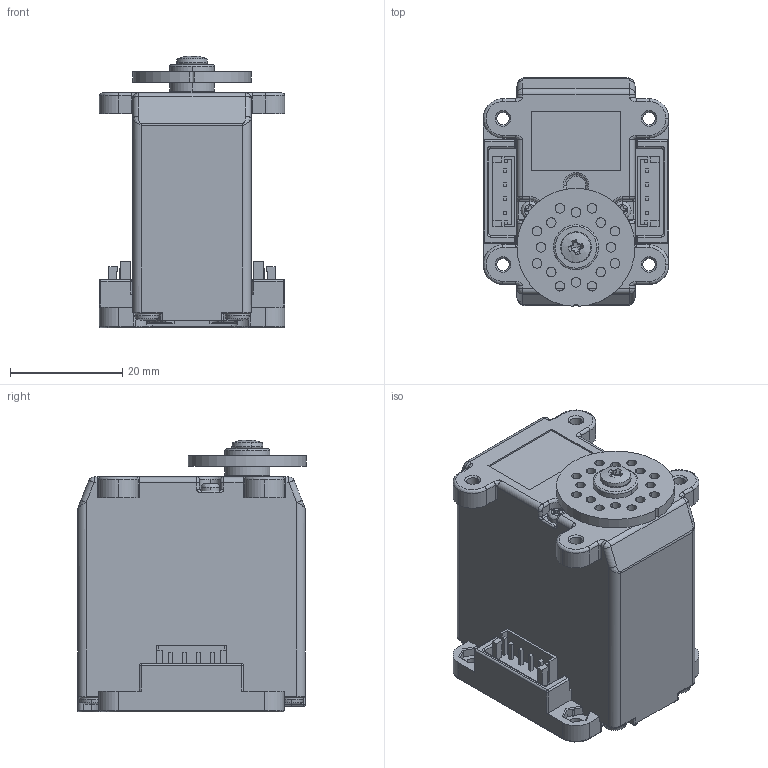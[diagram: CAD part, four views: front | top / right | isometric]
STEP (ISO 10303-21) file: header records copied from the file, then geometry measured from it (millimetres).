
FILE_DESCRIPTION (( 'STEP AP214' ), '1' );
FILE_NAME ('BLA21-12R3-C01(3D).STEP', '2024-10-24T05:09:47', ( '' ), ( '' ), 'SwSTEP 2.0', 'SolidWorks 2023', '' );
FILE_SCHEMA (( 'AUTOMOTIVE_DESIGN' ));
Length unit declared in the file: millimetre
Products named in the file (4): 1M15E43701_SerrationHorn_RH-3_2_1; BLA21-12R3-C01; BLA21-12R3-C01(3D); 8M00A01604_SW_PMS_3x8_NIFE_1_2_1
Assembly tree (3 placements, depth 2):
  BLA21-12R3-C01(3D)
    1M15E43701_SerrationHorn_RH-3_2_1
    8M00A01604_SW_PMS_3x8_NIFE_1_2_1
    BLA21-12R3-C01
Bounding box: 33 x 40.69 x 48.36 mm (x, y, z)
Volume: 38061.7 mm3; surface area: 10438.8 mm2
Topology: 3 solids, 3 shells, 835 faces, 2188 edges, 1368 vertices
Faces by surface type: plane 335, cylinder 256, cone 125, bspline 69, torus 36, sphere 14
Entity records: 30539 total; most frequent: CARTESIAN_POINT 9587, ORIENTED_EDGE 4324, DIRECTION 3976, EDGE_CURVE 2162, AXIS2_PLACEMENT_3D 1446, VERTEX_POINT 1368, LINE 1084, VECTOR 1084
